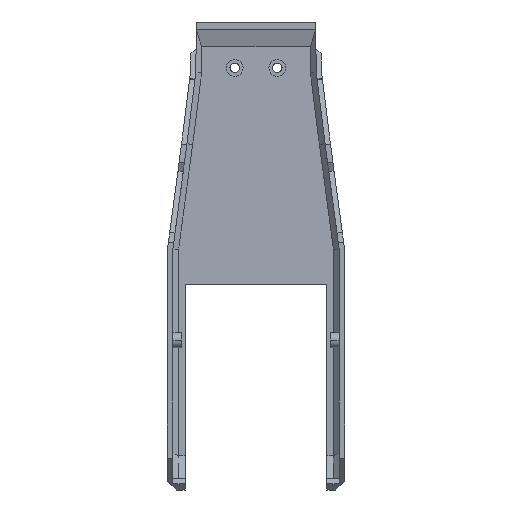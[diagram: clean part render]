
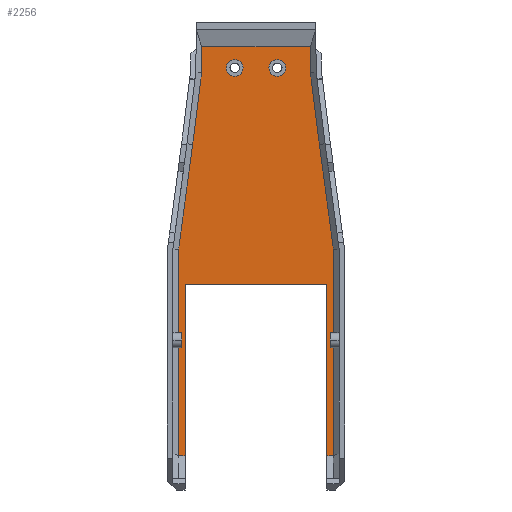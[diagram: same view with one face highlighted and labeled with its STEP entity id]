
A CAD part, front view. The second image highlights one B-rep face of the part: STEP entity #2256.
In plain terms, the highlighted planar face has unit normal (0, -1, 0).
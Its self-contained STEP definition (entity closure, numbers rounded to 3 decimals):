
#21=DIRECTION('',(0.,0.,-1.));
#22=VECTOR('',#21,48.379);
#23=CARTESIAN_POINT('',(-20.,15.5,-10.));
#24=LINE('',#23,#22);
#213=DIRECTION('',(0.,0.,-1.));
#214=VECTOR('',#213,48.379);
#215=CARTESIAN_POINT('',(20.,15.5,-10.));
#216=LINE('',#215,#214);
#457=CARTESIAN_POINT('',(-6.,15.5,51.25));
#458=DIRECTION('',(0.,-1.,0.));
#459=DIRECTION('',(1.,0.,0.));
#460=AXIS2_PLACEMENT_3D('',#457,#458,#459);
#462=CARTESIAN_POINT('',(-6.,15.5,51.25));
#463=DIRECTION('',(0.,-1.,0.));
#464=DIRECTION('',(-1.,0.,0.));
#465=AXIS2_PLACEMENT_3D('',#462,#463,#464);
#467=CARTESIAN_POINT('',(6.,15.5,51.25));
#468=DIRECTION('',(0.,-1.,0.));
#469=DIRECTION('',(1.,0.,0.));
#470=AXIS2_PLACEMENT_3D('',#467,#468,#469);
#472=CARTESIAN_POINT('',(6.,15.5,51.25));
#473=DIRECTION('',(0.,-1.,0.));
#474=DIRECTION('',(-1.,0.,0.));
#475=AXIS2_PLACEMENT_3D('',#472,#473,#474);
#477=DIRECTION('',(-1.,0.,0.));
#478=VECTOR('',#477,30.757);
#479=CARTESIAN_POINT('',(15.379,15.5,57.2));
#480=LINE('',#479,#478);
#481=DIRECTION('',(0.,0.,-1.));
#482=VECTOR('',#481,7.394);
#483=CARTESIAN_POINT('',(15.379,15.5,57.2));
#484=LINE('',#483,#482);
#485=DIRECTION('',(-0.124,0.,0.992));
#486=VECTOR('',#485,20.363);
#487=CARTESIAN_POINT('',(17.904,15.5,29.6));
#488=LINE('',#487,#486);
#489=DIRECTION('',(-0.132,0.,0.991));
#490=VECTOR('',#489,30.071);
#491=CARTESIAN_POINT('',(21.879,15.5,-0.207));
#492=LINE('',#491,#490);
#493=DIRECTION('',(0.,0.,-1.));
#494=VECTOR('',#493,58.172);
#495=CARTESIAN_POINT('',(21.879,15.5,-0.207));
#496=LINE('',#495,#494);
#497=DIRECTION('',(1.,0.,0.));
#498=VECTOR('',#497,1.879);
#499=CARTESIAN_POINT('',(20.,15.5,-58.379));
#500=LINE('',#499,#498);
#501=DIRECTION('',(1.,0.,0.));
#502=VECTOR('',#501,1.879);
#503=CARTESIAN_POINT('',(-21.879,15.5,-58.379));
#504=LINE('',#503,#502);
#505=DIRECTION('',(0.,0.,1.));
#506=VECTOR('',#505,58.172);
#507=CARTESIAN_POINT('',(-21.879,15.5,-58.379));
#508=LINE('',#507,#506);
#509=DIRECTION('',(-0.132,0.,-0.991));
#510=VECTOR('',#509,30.071);
#511=CARTESIAN_POINT('',(-17.904,15.5,29.6));
#512=LINE('',#511,#510);
#513=DIRECTION('',(-0.124,0.,-0.992));
#514=VECTOR('',#513,20.363);
#515=CARTESIAN_POINT('',(-15.379,15.5,49.806));
#516=LINE('',#515,#514);
#517=DIRECTION('',(0.,0.,1.));
#518=VECTOR('',#517,7.394);
#519=CARTESIAN_POINT('',(-15.379,15.5,49.806));
#520=LINE('',#519,#518);
#1219=DIRECTION('',(1.,0.,0.));
#1220=VECTOR('',#1219,40.);
#1221=CARTESIAN_POINT('',(-20.,15.5,-10.));
#1222=LINE('',#1221,#1220);
#1269=CARTESIAN_POINT('',(-20.,15.5,-10.));
#1270=CARTESIAN_POINT('',(-20.,15.5,-58.379));
#1271=VERTEX_POINT('',#1269);
#1272=VERTEX_POINT('',#1270);
#1277=CARTESIAN_POINT('',(20.,15.5,-10.));
#1278=VERTEX_POINT('',#1277);
#1279=CARTESIAN_POINT('',(20.,15.5,-58.379));
#1280=VERTEX_POINT('',#1279);
#1301=CARTESIAN_POINT('',(-3.65,15.5,51.25));
#1302=CARTESIAN_POINT('',(-8.35,15.5,51.25));
#1303=VERTEX_POINT('',#1301);
#1304=VERTEX_POINT('',#1302);
#1305=CARTESIAN_POINT('',(8.35,15.5,51.25));
#1306=CARTESIAN_POINT('',(3.65,15.5,51.25));
#1307=VERTEX_POINT('',#1305);
#1308=VERTEX_POINT('',#1306);
#1469=CARTESIAN_POINT('',(-17.904,15.5,29.6));
#1470=CARTESIAN_POINT('',(-21.879,15.5,-0.207));
#1471=VERTEX_POINT('',#1469);
#1472=VERTEX_POINT('',#1470);
#1479=CARTESIAN_POINT('',(-15.379,15.5,49.806));
#1480=VERTEX_POINT('',#1479);
#1481=CARTESIAN_POINT('',(-21.879,15.5,-58.379));
#1482=VERTEX_POINT('',#1481);
#1499=CARTESIAN_POINT('',(21.879,15.5,-58.379));
#1500=VERTEX_POINT('',#1499);
#1503=CARTESIAN_POINT('',(21.879,15.5,-0.207));
#1504=VERTEX_POINT('',#1503);
#1505=CARTESIAN_POINT('',(17.904,15.5,29.6));
#1506=CARTESIAN_POINT('',(15.379,15.5,49.806));
#1507=VERTEX_POINT('',#1505);
#1508=VERTEX_POINT('',#1506);
#1549=CARTESIAN_POINT('',(15.379,15.5,57.2));
#1550=CARTESIAN_POINT('',(-15.379,15.5,57.2));
#1551=VERTEX_POINT('',#1549);
#1552=VERTEX_POINT('',#1550);
#2212=CARTESIAN_POINT('',(0.,15.5,0.));
#2213=DIRECTION('',(0.,1.,0.));
#2214=DIRECTION('',(1.,0.,0.));
#2215=AXIS2_PLACEMENT_3D('',#2212,#2213,#2214);
#2216=PLANE('',#2215);
#2218=ORIENTED_EDGE('',*,*,#2217,.F.);
#2220=ORIENTED_EDGE('',*,*,#2219,.T.);
#2222=ORIENTED_EDGE('',*,*,#2221,.F.);
#2224=ORIENTED_EDGE('',*,*,#2223,.F.);
#2226=ORIENTED_EDGE('',*,*,#2225,.T.);
#2228=ORIENTED_EDGE('',*,*,#2227,.F.);
#2229=ORIENTED_EDGE('',*,*,#1951,.F.);
#2231=ORIENTED_EDGE('',*,*,#2230,.F.);
#2232=ORIENTED_EDGE('',*,*,#1668,.T.);
#2234=ORIENTED_EDGE('',*,*,#2233,.F.);
#2236=ORIENTED_EDGE('',*,*,#2235,.T.);
#2238=ORIENTED_EDGE('',*,*,#2237,.F.);
#2240=ORIENTED_EDGE('',*,*,#2239,.F.);
#2242=ORIENTED_EDGE('',*,*,#2241,.T.);
#2243=EDGE_LOOP('',(#2218,#2220,#2222,#2224,#2226,#2228,#2229,#2231,#2232,#2234,
#2236,#2238,#2240,#2242));
#2244=FACE_OUTER_BOUND('',#2243,.F.);
#2246=ORIENTED_EDGE('',*,*,#2245,.T.);
#2248=ORIENTED_EDGE('',*,*,#2247,.T.);
#2249=EDGE_LOOP('',(#2246,#2248));
#2250=FACE_BOUND('',#2249,.F.);
#2251=ORIENTED_EDGE('',*,*,#2202,.T.);
#2253=ORIENTED_EDGE('',*,*,#2252,.T.);
#2254=EDGE_LOOP('',(#2251,#2253));
#2255=FACE_BOUND('',#2254,.F.);
#2256=ADVANCED_FACE('',(#2244,#2250,#2255),#2216,.F.);
#461=CIRCLE('',#460,2.35);
#466=CIRCLE('',#465,2.35);
#471=CIRCLE('',#470,2.35);
#476=CIRCLE('',#475,2.35);
#1668=EDGE_CURVE('',#1271,#1272,#24,.T.);
#1951=EDGE_CURVE('',#1278,#1280,#216,.T.);
#2202=EDGE_CURVE('',#1303,#1304,#461,.T.);
#2217=EDGE_CURVE('',#1551,#1552,#480,.T.);
#2219=EDGE_CURVE('',#1551,#1508,#484,.T.);
#2221=EDGE_CURVE('',#1507,#1508,#488,.T.);
#2223=EDGE_CURVE('',#1504,#1507,#492,.T.);
#2225=EDGE_CURVE('',#1504,#1500,#496,.T.);
#2227=EDGE_CURVE('',#1280,#1500,#500,.T.);
#2230=EDGE_CURVE('',#1271,#1278,#1222,.T.);
#2233=EDGE_CURVE('',#1482,#1272,#504,.T.);
#2235=EDGE_CURVE('',#1482,#1472,#508,.T.);
#2237=EDGE_CURVE('',#1471,#1472,#512,.T.);
#2239=EDGE_CURVE('',#1480,#1471,#516,.T.);
#2241=EDGE_CURVE('',#1480,#1552,#520,.T.);
#2245=EDGE_CURVE('',#1307,#1308,#471,.T.);
#2247=EDGE_CURVE('',#1308,#1307,#476,.T.);
#2252=EDGE_CURVE('',#1304,#1303,#466,.T.);
